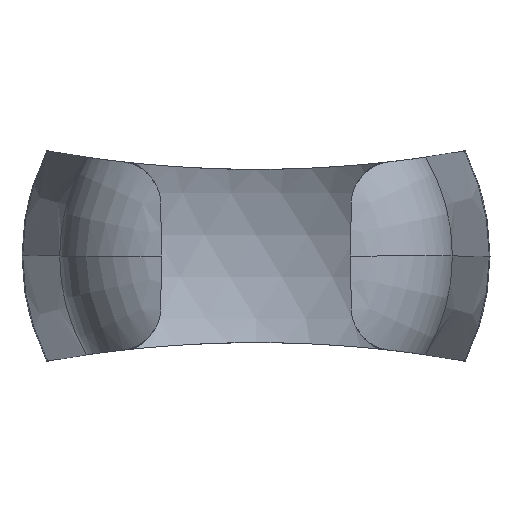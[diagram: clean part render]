
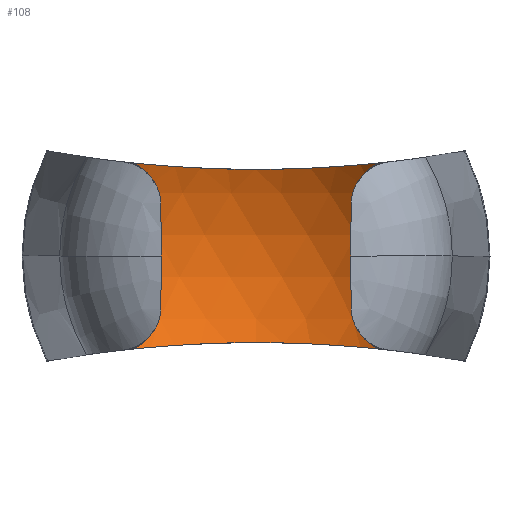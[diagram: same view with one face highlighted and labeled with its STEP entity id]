
A CAD part, front view. The second image highlights one B-rep face of the part: STEP entity #108.
In plain terms, the highlighted spherical face has radius 15.75 mm.
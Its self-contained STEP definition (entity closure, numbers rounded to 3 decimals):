
#108=ADVANCED_FACE('',(#215),#216,.F.);
#215=FACE_OUTER_BOUND('',#705,.T.);
#216=SPHERICAL_SURFACE('',#706,15.75);
#705=EDGE_LOOP('',(#1093,#1094,#1095,#1096));
#706=AXIS2_PLACEMENT_3D('',#1097,#1098,#1099);
#1093=ORIENTED_EDGE('',*,*,#1157,.F.);
#1094=ORIENTED_EDGE('',*,*,#1241,.T.);
#1095=ORIENTED_EDGE('',*,*,#1163,.F.);
#1096=ORIENTED_EDGE('',*,*,#1219,.F.);
#1097=CARTESIAN_POINT('',(0.0,6.954,0.0));
#1098=DIRECTION('',(0.0,0.0,1.0));
#1099=DIRECTION('',(1.0,0.0,0.0));
#1157=EDGE_CURVE('',#1288,#1289,#1290,.T.);
#1163=EDGE_CURVE('',#1299,#1300,#1301,.T.);
#1219=EDGE_CURVE('',#1289,#1299,#1386,.T.);
#1241=EDGE_CURVE('',#1288,#1300,#1415,.T.);
#1288=VERTEX_POINT('',#1511);
#1289=VERTEX_POINT('',#1512);
#1290=CIRCLE('',#1513,15.75);
#1299=VERTEX_POINT('',#1620);
#1300=VERTEX_POINT('',#1621);
#1301=CIRCLE('',#1622,15.75);
#1386=B_SPLINE_CURVE_WITH_KNOTS('',3,(#2185,#2186,#2187,#2188,#2189,#2190,#2191,#2192,#2193,#2194,#2195,#2196,#2197,#2198,#2199,#2200,#2201,#2202,#2203,#2204,#2205,#2206,#2207,#2208,#2209,#2210,#2211,#2212,#2213,#2214,#2215,#2216,#2217,#2218,#2219,#2220,#2221,#2222,#2223,#2224,#2225,#2226,#2227,#2228,#2229,#2230,#2231,#2232,#2233,#2234),.UNSPECIFIED.,.F.,.F.,(4,2,2,2,2,2,2,2,2,2,2,2,2,2,2,2,2,2,2,2,2,2,2,2,4),(0.0,0.003,0.004,0.006,0.009,0.01,0.012,0.015,0.016,0.018,0.019,0.021,0.024,0.025,0.026,0.028,0.029,0.032,0.034,0.035,0.037,0.038,0.041,0.044,0.047),.UNSPECIFIED.);
#1415=B_SPLINE_CURVE_WITH_KNOTS('',3,(#2462,#2463,#2464,#2465,#2466,#2467,#2468,#2469,#2470,#2471,#2472,#2473,#2474,#2475,#2476,#2477,#2478,#2479,#2480,#2481,#2482,#2483,#2484,#2485,#2486,#2487,#2488,#2489,#2490,#2491,#2492,#2493,#2494,#2495,#2496,#2497,#2498,#2499,#2500,#2501,#2502,#2503,#2504,#2505,#2506,#2507,#2508,#2509,#2510,#2511),.UNSPECIFIED.,.F.,.F.,(4,2,2,2,2,2,2,2,2,2,2,2,2,2,2,2,2,2,2,2,2,2,2,2,4),(0.0,0.003,0.004,0.006,0.009,0.01,0.012,0.015,0.016,0.018,0.019,0.021,0.024,0.025,0.026,0.028,0.029,0.032,0.034,0.035,0.037,0.038,0.041,0.044,0.047),.UNSPECIFIED.);
#1511=CARTESIAN_POINT('',(-13.891,6.954,-7.423));
#1512=CARTESIAN_POINT('',(-13.891,6.954,7.423));
#1513=AXIS2_PLACEMENT_3D('',#2554,#2555,#2556);
#1620=CARTESIAN_POINT('',(13.891,6.954,7.423));
#1621=CARTESIAN_POINT('',(13.891,6.954,-7.423));
#1622=AXIS2_PLACEMENT_3D('',#2563,#2564,#2565);
#2185=CARTESIAN_POINT('',(-13.832,5.612,7.413));
#2186=CARTESIAN_POINT('',(-13.92,6.602,7.427));
#2187=CARTESIAN_POINT('',(-13.91,7.584,7.426));
#2188=CARTESIAN_POINT('',(-13.754,9.045,7.4));
#2189=CARTESIAN_POINT('',(-13.678,9.531,7.388));
#2190=CARTESIAN_POINT('',(-13.477,10.498,7.356));
#2191=CARTESIAN_POINT('',(-13.352,10.98,7.336));
#2192=CARTESIAN_POINT('',(-12.91,12.388,7.268));
#2193=CARTESIAN_POINT('',(-12.527,13.288,7.21));
#2194=CARTESIAN_POINT('',(-11.817,14.577,7.109));
#2195=CARTESIAN_POINT('',(-11.556,14.999,7.074));
#2196=CARTESIAN_POINT('',(-10.994,15.811,6.999));
#2197=CARTESIAN_POINT('',(-10.694,16.199,6.961));
#2198=CARTESIAN_POINT('',(-9.74,17.312,6.846));
#2199=CARTESIAN_POINT('',(-9.032,17.985,6.767));
#2200=CARTESIAN_POINT('',(-7.853,18.886,6.654));
#2201=CARTESIAN_POINT('',(-7.444,19.165,6.617));
#2202=CARTESIAN_POINT('',(-6.606,19.673,6.549));
#2203=CARTESIAN_POINT('',(-6.175,19.904,6.516));
#2204=CARTESIAN_POINT('',(-5.29,20.319,6.457));
#2205=CARTESIAN_POINT('',(-4.835,20.503,6.431));
#2206=CARTESIAN_POINT('',(-3.901,20.823,6.383));
#2207=CARTESIAN_POINT('',(-3.421,20.958,6.363));
#2208=CARTESIAN_POINT('',(-1.979,21.281,6.314));
#2209=CARTESIAN_POINT('',(-1.006,21.389,6.296));
#2210=CARTESIAN_POINT('',(0.474,21.391,6.296));
#2211=CARTESIAN_POINT('',(0.973,21.365,6.3));
#2212=CARTESIAN_POINT('',(1.954,21.257,6.317));
#2213=CARTESIAN_POINT('',(2.439,21.177,6.329));
#2214=CARTESIAN_POINT('',(3.396,20.965,6.362));
#2215=CARTESIAN_POINT('',(3.868,20.833,6.382));
#2216=CARTESIAN_POINT('',(4.801,20.516,6.429));
#2217=CARTESIAN_POINT('',(5.264,20.33,6.456));
#2218=CARTESIAN_POINT('',(6.605,19.705,6.545));
#2219=CARTESIAN_POINT('',(7.442,19.198,6.614));
#2220=CARTESIAN_POINT('',(8.615,18.304,6.727));
#2221=CARTESIAN_POINT('',(8.995,17.982,6.766));
#2222=CARTESIAN_POINT('',(9.711,17.306,6.844));
#2223=CARTESIAN_POINT('',(10.049,16.951,6.883));
#2224=CARTESIAN_POINT('',(10.687,16.209,6.96));
#2225=CARTESIAN_POINT('',(10.986,15.822,6.998));
#2226=CARTESIAN_POINT('',(11.546,15.015,7.072));
#2227=CARTESIAN_POINT('',(11.808,14.593,7.108));
#2228=CARTESIAN_POINT('',(12.524,13.296,7.209));
#2229=CARTESIAN_POINT('',(12.908,12.395,7.267));
#2230=CARTESIAN_POINT('',(13.496,10.522,7.358));
#2231=CARTESIAN_POINT('',(13.7,9.542,7.392));
#2232=CARTESIAN_POINT('',(13.91,7.586,7.426));
#2233=CARTESIAN_POINT('',(13.92,6.602,7.427));
#2234=CARTESIAN_POINT('',(13.832,5.612,7.413));
#2462=CARTESIAN_POINT('',(-13.832,5.612,-7.413));
#2463=CARTESIAN_POINT('',(-13.92,6.602,-7.427));
#2464=CARTESIAN_POINT('',(-13.91,7.584,-7.426));
#2465=CARTESIAN_POINT('',(-13.754,9.045,-7.4));
#2466=CARTESIAN_POINT('',(-13.678,9.531,-7.388));
#2467=CARTESIAN_POINT('',(-13.477,10.498,-7.356));
#2468=CARTESIAN_POINT('',(-13.352,10.98,-7.336));
#2469=CARTESIAN_POINT('',(-12.91,12.388,-7.268));
#2470=CARTESIAN_POINT('',(-12.527,13.288,-7.21));
#2471=CARTESIAN_POINT('',(-11.817,14.577,-7.109));
#2472=CARTESIAN_POINT('',(-11.556,14.999,-7.074));
#2473=CARTESIAN_POINT('',(-10.994,15.811,-6.999));
#2474=CARTESIAN_POINT('',(-10.694,16.199,-6.961));
#2475=CARTESIAN_POINT('',(-9.74,17.312,-6.846));
#2476=CARTESIAN_POINT('',(-9.032,17.985,-6.767));
#2477=CARTESIAN_POINT('',(-7.853,18.886,-6.654));
#2478=CARTESIAN_POINT('',(-7.444,19.165,-6.617));
#2479=CARTESIAN_POINT('',(-6.606,19.673,-6.549));
#2480=CARTESIAN_POINT('',(-6.175,19.904,-6.516));
#2481=CARTESIAN_POINT('',(-5.29,20.319,-6.457));
#2482=CARTESIAN_POINT('',(-4.835,20.503,-6.431));
#2483=CARTESIAN_POINT('',(-3.901,20.823,-6.383));
#2484=CARTESIAN_POINT('',(-3.421,20.958,-6.363));
#2485=CARTESIAN_POINT('',(-1.979,21.281,-6.314));
#2486=CARTESIAN_POINT('',(-1.006,21.389,-6.296));
#2487=CARTESIAN_POINT('',(0.474,21.391,-6.296));
#2488=CARTESIAN_POINT('',(0.973,21.365,-6.3));
#2489=CARTESIAN_POINT('',(1.954,21.257,-6.317));
#2490=CARTESIAN_POINT('',(2.439,21.177,-6.329));
#2491=CARTESIAN_POINT('',(3.396,20.965,-6.362));
#2492=CARTESIAN_POINT('',(3.868,20.833,-6.382));
#2493=CARTESIAN_POINT('',(4.801,20.516,-6.429));
#2494=CARTESIAN_POINT('',(5.264,20.33,-6.456));
#2495=CARTESIAN_POINT('',(6.605,19.705,-6.545));
#2496=CARTESIAN_POINT('',(7.442,19.198,-6.614));
#2497=CARTESIAN_POINT('',(8.615,18.304,-6.727));
#2498=CARTESIAN_POINT('',(8.995,17.982,-6.766));
#2499=CARTESIAN_POINT('',(9.711,17.306,-6.844));
#2500=CARTESIAN_POINT('',(10.049,16.951,-6.883));
#2501=CARTESIAN_POINT('',(10.687,16.209,-6.96));
#2502=CARTESIAN_POINT('',(10.986,15.822,-6.998));
#2503=CARTESIAN_POINT('',(11.546,15.015,-7.072));
#2504=CARTESIAN_POINT('',(11.808,14.593,-7.108));
#2505=CARTESIAN_POINT('',(12.524,13.296,-7.209));
#2506=CARTESIAN_POINT('',(12.908,12.395,-7.267));
#2507=CARTESIAN_POINT('',(13.496,10.522,-7.358));
#2508=CARTESIAN_POINT('',(13.7,9.542,-7.392));
#2509=CARTESIAN_POINT('',(13.91,7.586,-7.426));
#2510=CARTESIAN_POINT('',(13.92,6.602,-7.427));
#2511=CARTESIAN_POINT('',(13.832,5.612,-7.413));
#2554=CARTESIAN_POINT('',(0.,6.954,0.0));
#2555=DIRECTION('',(0.,1.0,0.0));
#2556=DIRECTION('',(-0.0,0.0,1.0));
#2563=CARTESIAN_POINT('',(0.,6.954,0.0));
#2564=DIRECTION('',(0.,1.0,0.0));
#2565=DIRECTION('',(-0.0,0.0,1.0));
